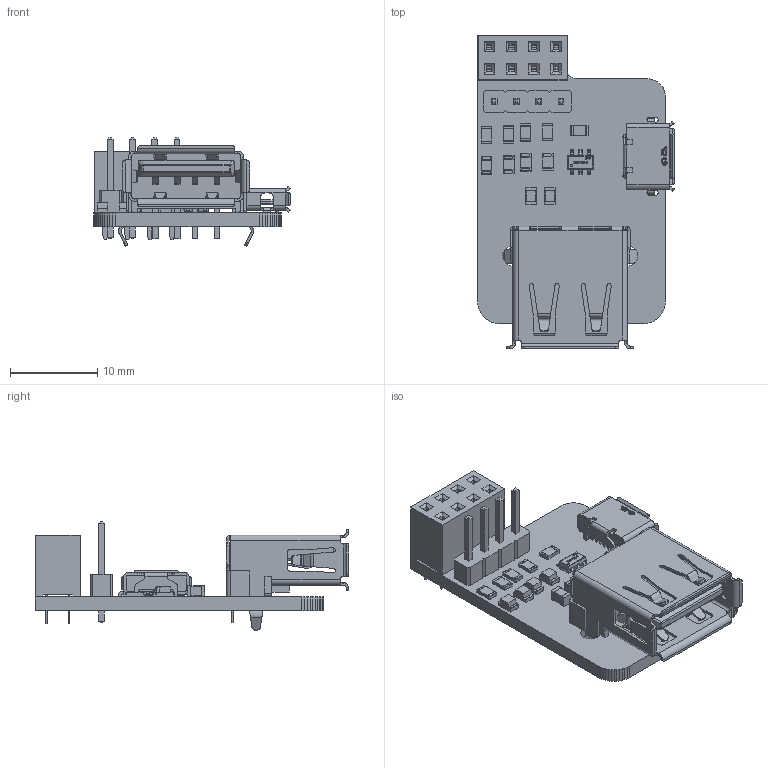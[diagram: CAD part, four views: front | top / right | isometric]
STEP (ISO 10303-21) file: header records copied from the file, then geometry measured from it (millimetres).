
FILE_DESCRIPTION(('KiCad electronic assembly'),'2;1');
FILE_NAME('mirte-usb-switcher.step','2024-02-28T10:47:33',('Pcbnew'),( 'Kicad'),'Open CASCADE STEP processor 7.7','KiCad to STEP converter' ,'Unknown');
FILE_SCHEMA(('AUTOMOTIVE_DESIGN { 1 0 10303 214 1 1 1 1 }'));
Length unit declared in the file: millimetre
Products named in the file (18): mirte-usb-switcher 1; R_0805_2012Metric; SOLID; LED_0805_2012Metric; TSOT-23-6_L2.9-W1.6-H1.1-LS2.8-P0.95; COMPOUND; MICRO-USB-SMD_47590-0001; PinSocket_2x04_P2.54mm_Vertical; C_0805_2012Metric; USB-A-TH_4P-L14.5-W14.0-H7.6-S2.71; PinHeader_1x04_P2.54mm_Vertical; mirte-usb-switcher PCB
Assembly tree (25 placements, depth 3):
  mirte-usb-switcher 1
    R_0805_2012Metric  x5
      SOLID
    LED_0805_2012Metric  x4
      SOLID
    TSOT-23-6_L2.9-W1.6-H1.1-LS2.8-P0.95
      COMPOUND
    MICRO-USB-SMD_47590-0001
      COMPOUND
    PinSocket_2x04_P2.54mm_Vertical
      SOLID
    C_0805_2012Metric  x2
      SOLID
    USB-A-TH_4P-L14.5-W14.0-H7.6-S2.71
      COMPOUND
    PinHeader_1x04_P2.54mm_Vertical
      SOLID
    mirte-usb-switcher PCB
Bounding box: 22.48 x 35.88 x 12.41 mm (x, y, z)
Volume: 2158.6 mm3; surface area: 4375.7 mm2
Topology: 38 solids, 38 shells, 3029 faces, 7971 edges, 5096 vertices
Faces by surface type: plane 1962, cylinder 573, bspline 400, torus 48, sphere 46
Full cylindrical faces by diameter (mm): 1 x12, 1.1 x4, 2.3 x2
Entity records: 213605 total; most frequent: CARTESIAN_POINT 56383, DIRECTION 23848, LINE 16864, VECTOR 16864, ORIENTED_EDGE 14416, PCURVE 14416, DEFINITIONAL_REPRESENTATION 14416, EDGE_CURVE 7208
